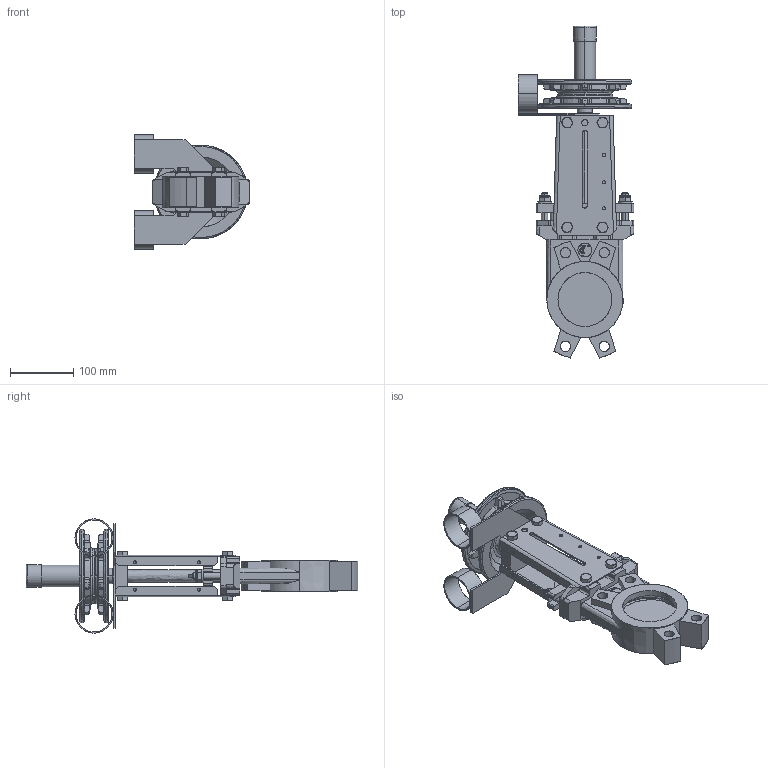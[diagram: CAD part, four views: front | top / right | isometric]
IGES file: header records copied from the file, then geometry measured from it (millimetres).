
Start section: SolidWorks IGES file using analytic representation for surfaces
Global section: file name: D:\part\3D Projects\VG-CHAIN HANDWHEEL(DN50-600)\VG C DN80\VG C DN80.IGS; native system: SolidWorks 2009; preprocessor: SolidWorks 2009; author: zhixin.zheng; date: 100125.161843; units: millimetre
Bounding box: 182 x 523.67 x 180.3 mm (x, y, z)
Surface area: 408631.1 mm2 (no closed solid volume)
Topology: 0 solids, 0 shells, 881 faces, 9622 edges, 9622 vertices
Faces by surface type: bspline 480, revolution 401
